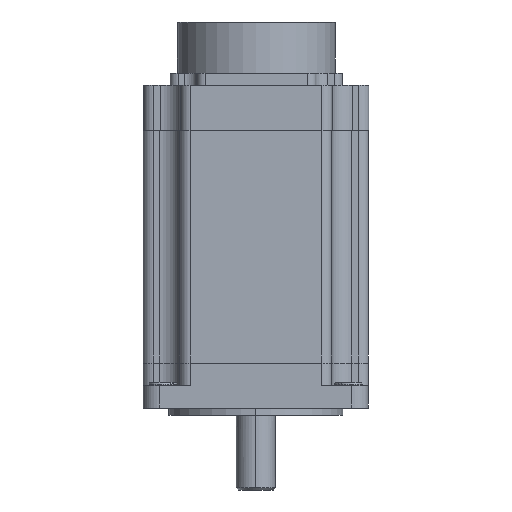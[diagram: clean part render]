
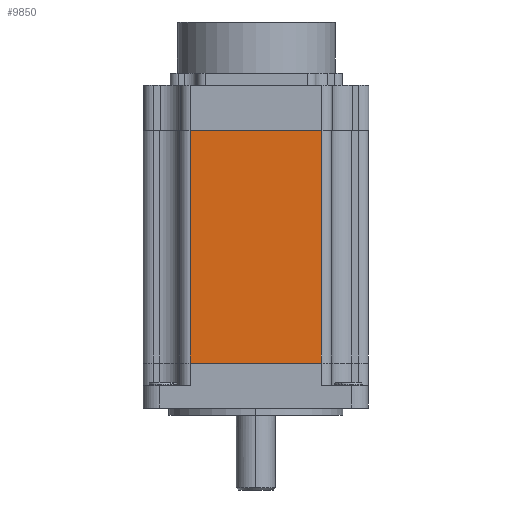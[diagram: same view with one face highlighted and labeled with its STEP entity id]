
A CAD part, left-side view. The second image highlights one B-rep face of the part: STEP entity #9850.
In plain terms, the highlighted planar face has unit normal (-1, 0, 0).
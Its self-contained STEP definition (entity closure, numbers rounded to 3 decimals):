
#749 = DIRECTION ( 'NONE',  ( 0., 1., 0. ) ) ;
#1703 = VERTEX_POINT ( 'NONE', #3932 ) ;
#1705 = ORIENTED_EDGE ( 'NONE', *, *, #14273, .F. ) ;
#3932 = CARTESIAN_POINT ( 'NONE',  ( -55., -32., 0. ) ) ;
#4035 = CARTESIAN_POINT ( 'NONE',  ( -55., 32., 113.5 ) ) ;
#4180 = EDGE_CURVE ( 'NONE', #4791, #15735, #17827, .T. ) ;
#4629 = LINE ( 'NONE', #19282, #23937 ) ;
#4791 = VERTEX_POINT ( 'NONE', #5293 ) ;
#5212 = ORIENTED_EDGE ( 'NONE', *, *, #8594, .F. ) ;
#5293 = CARTESIAN_POINT ( 'NONE',  ( -55., 32., 0. ) ) ;
#5696 = LINE ( 'NONE', #6743, #20019 ) ;
#6209 = DIRECTION ( 'NONE',  ( 0., 0., 1. ) ) ;
#6743 = CARTESIAN_POINT ( 'NONE',  ( -55., -32., 113.5 ) ) ;
#6846 = VECTOR ( 'NONE', #10188, 1000. ) ;
#8068 = ORIENTED_EDGE ( 'NONE', *, *, #14340, .F. ) ;
#8301 = CARTESIAN_POINT ( 'NONE',  ( -55., -121.141, 113.5 ) ) ;
#8594 = EDGE_CURVE ( 'NONE', #1703, #4791, #4629, .T. ) ;
#9017 = PLANE ( 'NONE',  #10054 ) ;
#9465 = VERTEX_POINT ( 'NONE', #12792 ) ;
#9850 = ADVANCED_FACE ( 'NONE', ( #12157 ), #9017, .F. ) ;
#10054 = AXIS2_PLACEMENT_3D ( 'NONE', #14598, #24014, #12764 ) ;
#10188 = DIRECTION ( 'NONE',  ( 0., -1., 0. ) ) ;
#12157 = FACE_OUTER_BOUND ( 'NONE', #17716, .T. ) ;
#12382 = DIRECTION ( 'NONE',  ( 0., 0., -1. ) ) ;
#12764 = DIRECTION ( 'NONE',  ( 0., 1., 0. ) ) ;
#12792 = CARTESIAN_POINT ( 'NONE',  ( -55., -32., 113.5 ) ) ;
#14273 = EDGE_CURVE ( 'NONE', #15735, #9465, #17993, .T. ) ;
#14340 = EDGE_CURVE ( 'NONE', #9465, #1703, #5696, .T. ) ;
#14598 = CARTESIAN_POINT ( 'NONE',  ( -55., -121.141, 113.5 ) ) ;
#15735 = VERTEX_POINT ( 'NONE', #4035 ) ;
#17240 = VECTOR ( 'NONE', #6209, 1000. ) ;
#17716 = EDGE_LOOP ( 'NONE', ( #8068, #1705, #19560, #5212 ) ) ;
#17827 = LINE ( 'NONE', #23006, #17240 ) ;
#17993 = LINE ( 'NONE', #8301, #6846 ) ;
#19282 = CARTESIAN_POINT ( 'NONE',  ( -55., -121.141, 0. ) ) ;
#19560 = ORIENTED_EDGE ( 'NONE', *, *, #4180, .F. ) ;
#20019 = VECTOR ( 'NONE', #12382, 1000. ) ;
#23006 = CARTESIAN_POINT ( 'NONE',  ( -55., 32., 113.5 ) ) ;
#23937 = VECTOR ( 'NONE', #749, 1000. ) ;
#24014 = DIRECTION ( 'NONE',  ( 1., 0., 0. ) ) ;
